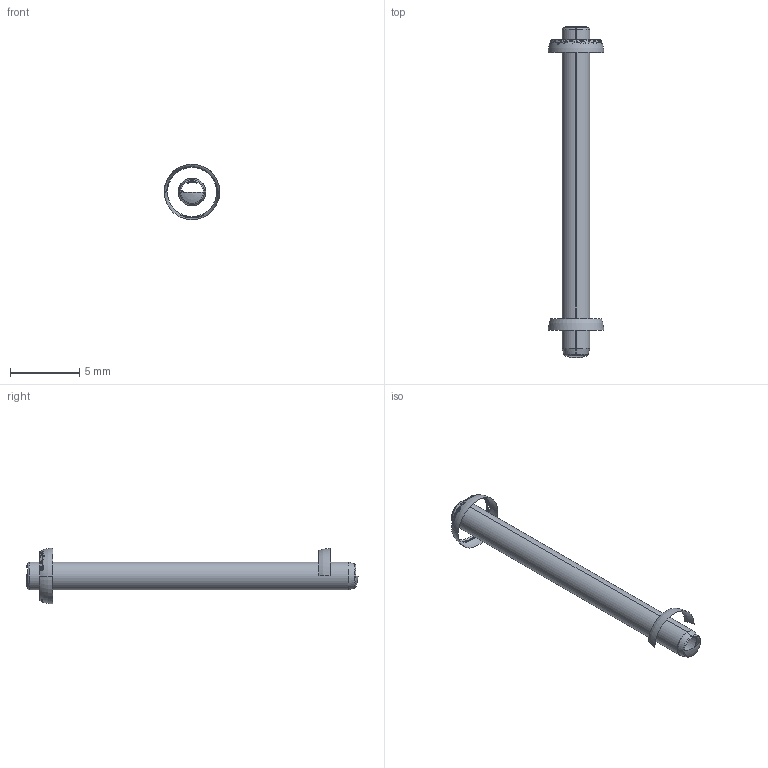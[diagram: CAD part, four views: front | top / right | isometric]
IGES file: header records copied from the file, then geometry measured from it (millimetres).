
Start section: SolidWorks IGES file using analytic representation for surfaces
Global section: file name: D:\Cleonir_arquivos\MT_15_07\Pinos Guia DIN 6325 ISO 8734 sem rosca\PG602024.igs; native system: SolidWorks 2013; preprocessor: SolidWorks 2013; author: Cleonir; date: 130718.161611; units: millimetre
Bounding box: 4 x 23.91 x 4 mm (x, y, z)
Surface area: 168.4 mm2 (no closed solid volume)
Topology: 0 solids, 0 shells, 294 faces, 2077 edges, 2076 vertices
Faces by surface type: bspline 267, revolution 27
